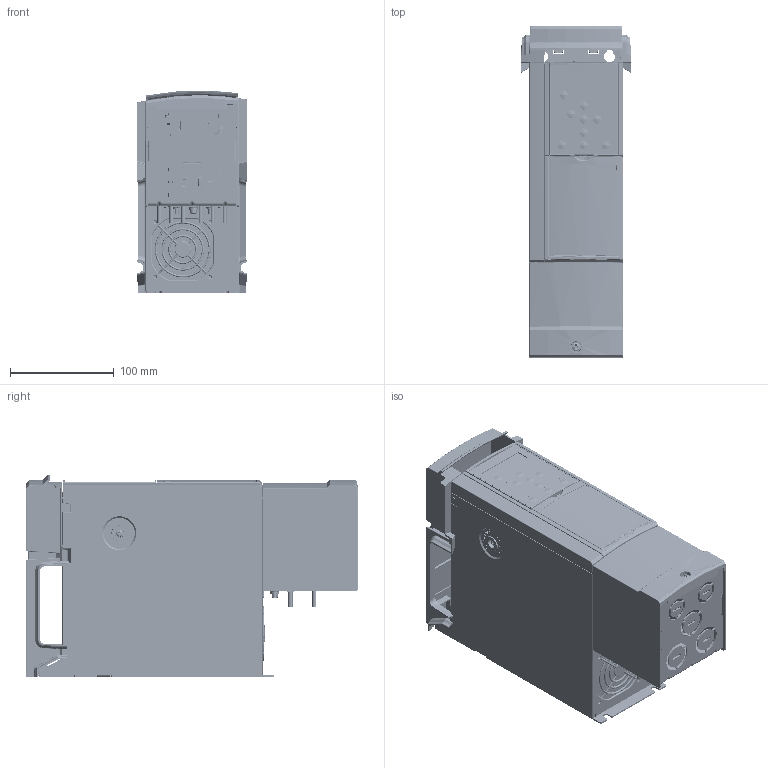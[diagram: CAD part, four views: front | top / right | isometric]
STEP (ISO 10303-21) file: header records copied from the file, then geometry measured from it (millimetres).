
FILE_DESCRIPTION((''),'2;1');
FILE_NAME('H2-IP21','2012-11-20T',('U238965'),('Danfoss Power Electronics'),'PRO/ENGINEER BY PARAMETRIC TECHNOLOGY CORPORATION, 2011490','PRO/ENGINEER BY PARAMETRIC TECHNOLOGY CORPORATION, 2011490','');
FILE_SCHEMA(('CONFIG_CONTROL_DESIGN', 'GEOMETRIC_VALIDATION_PROPERTIES_MIM'));
Products named in the file (1): H2-IP21
Bounding box: 106.53 x 320 x 195.45 mm (x, y, z)
Volume: 3083288 mm3; surface area: 480371.8 mm2
Topology: 3 solids, 85 shells, 16583 faces, 46381 edges, 30158 vertices
Faces by surface type: plane 12144, cylinder 2813, bspline 595, sphere 358, torus 355, cone 318
Entity records: 670611 total; most frequent: CARTESIAN_POINT 186130, ORIENTED_EDGE 91319, DIRECTION 73567, EDGE_CURVE 46014, VERTEX_POINT 30157, VECTOR 28173, LINE 28173, AXIS2_PLACEMENT_3D 22697
